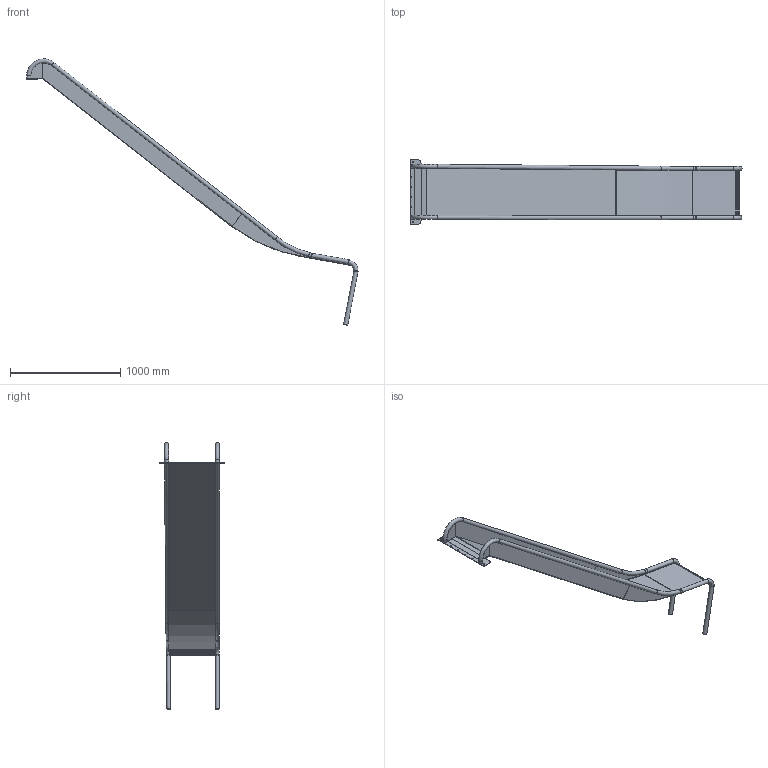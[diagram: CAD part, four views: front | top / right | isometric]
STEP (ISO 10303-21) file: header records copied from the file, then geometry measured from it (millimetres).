
FILE_DESCRIPTION(/* description */ (''),/* implementation_level */ '2;1');
FILE_NAME(/* name */ 'F:\_Inventor\- Tegningsmateriale - kunder\PlayNsafe\PlayNsafe Rutchebaner\100-1900-500 (B500 H1750-2000 uden ører)\100-1900-500.stp',/* time_stamp */ '2026-09-04T11:01:10+02:00',/* author */ ('jm'),/* organization */ (''),/* preprocessor_version */ 'ST-DEVELOPER v18.1',/* originating_system */ 'Autodesk Inventor 2022',/* authorisation */ '');
FILE_SCHEMA (('AUTOMOTIVE_DESIGN { 1 0 10303 214 3 1 1 }'));
Length unit declared in the file: millimetre
Products named in the file (8): 100-1900-500; 100-1900-500 indløb; Rutschebane B50 Øre; bund model til step; udløb til LB2200 model til step; monterings plade model uden ører; 100-1900-500 rør; Lb2200 venstre
Assembly tree (10 placements, depth 2):
  100-1900-500
    100-1900-500 indløb
    Rutschebane B50 Øre  x2
    bund model til step
    udløb til LB2200 model til step
    monterings plade model uden ører
    Lb2200 venstre  x2
    100-1900-500 rør  x2
Bounding box: 3010.33 x 595 x 2414.77 mm (x, y, z)
Volume: 14487279.4 mm3; surface area: 5821851.7 mm2
Topology: 10 solids, 10 shells, 235 faces, 543 edges, 329 vertices
Faces by surface type: plane 147, cylinder 68, bspline 10, torus 6, cone 4
Full cylindrical faces by diameter (mm): 6.5 x4, 38 x14, 38.5 x2
Entity records: 7478 total; most frequent: CARTESIAN_POINT 2512, DIRECTION 1001, ORIENTED_EDGE 940, EDGE_CURVE 470, AXIS2_PLACEMENT_3D 337, LINE 327, VECTOR 327, VERTEX_POINT 281
